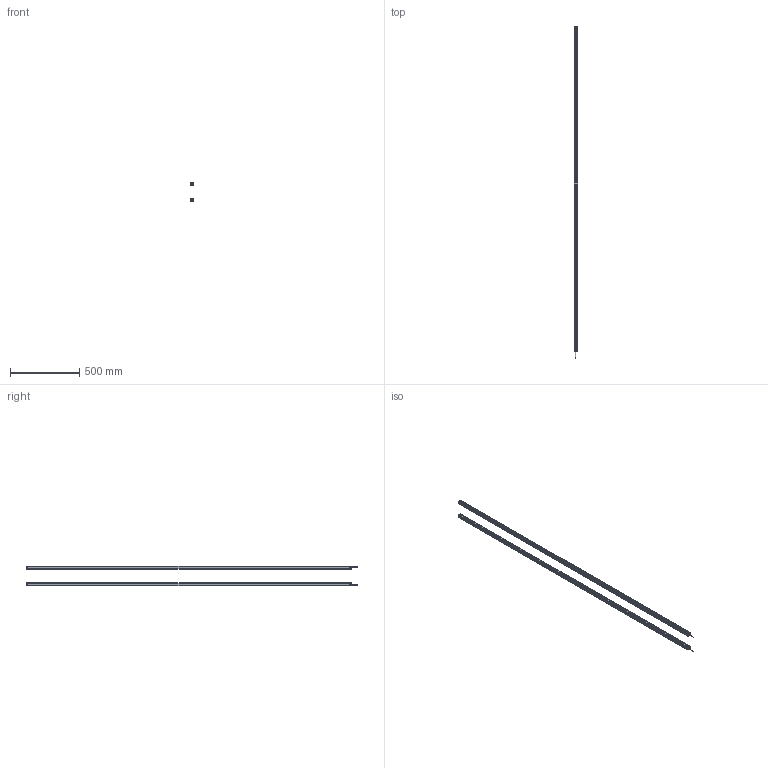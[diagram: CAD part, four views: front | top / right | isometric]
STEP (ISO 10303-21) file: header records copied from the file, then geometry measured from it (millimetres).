
FILE_DESCRIPTION(/* description */ (''),/* implementation_level */ '2;1');
FILE_NAME(/* name */ 'MTC5840.stp',/* time_stamp */ '2023-10-23T13:51:58+08:00',/* author */ (''),/* organization */ (''),/* preprocessor_version */ 'ST-DEVELOPER v16.7',/* originating_system */ 'SIEMENS PLM Software NX 12.0',/* authorisation */ '');
FILE_SCHEMA (('AP203_CONFIGURATION_CONTROLLED_3D_DESIGN_OF_MECHANICAL_PARTS_AND_ASSEMBLIES_MIM_LF { 1 0 10303 403 2 1 2}'));
Length unit declared in the file: millimetre
Products named in the file (5): P02^MTC582582; MTC waike^MTC583583; 镜向P02^MTC584584; P01^MTC585585; MTC5640_stp
Assembly tree (6 placements, depth 2):
  MTC5640_stp
    P01^MTC585585  x2
    镜向P02^MTC584584
    MTC waike^MTC583583  x2
    P02^MTC582582
Bounding box: 25 x 2392 x 141.4 mm (x, y, z)
Volume: 759120.3 mm3; surface area: 1064643.1 mm2
Topology: 8 solids, 8 shells, 480 faces, 1396 edges, 924 vertices
Faces by surface type: plane 272, cylinder 208
Entity records: 11296 total; most frequent: DIRECTION 1877, CARTESIAN_POINT 1876, ORIENTED_EDGE 1846, EDGE_CURVE 923, AXIS2_PLACEMENT_3D 635, VERTEX_POINT 610, LINE 607, VECTOR 607
